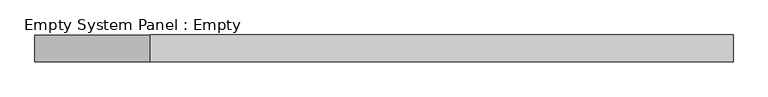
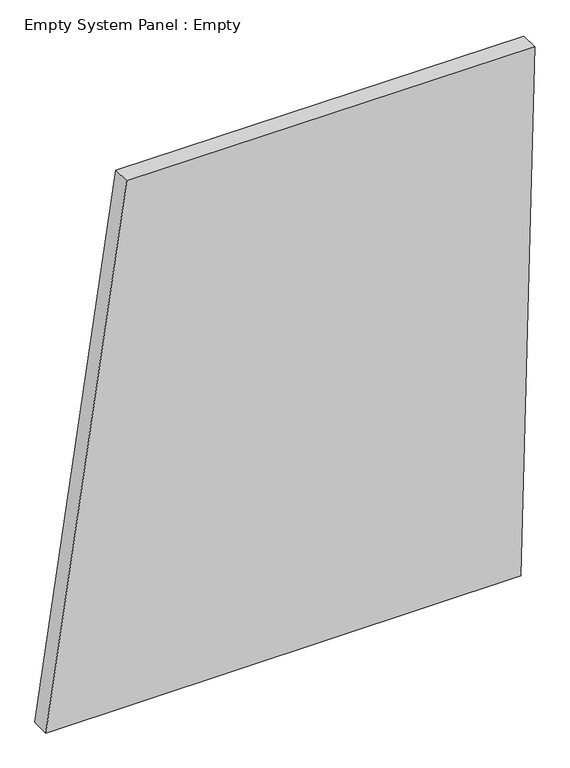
"""IFC4 building model written with IfcOpenShell, lengths in millimetres: plate geometry, Empty System Panel : Empty."""

import ifcopenshell
import ifcopenshell.guid

model = None  # the IFC model being written
_history = None  # IfcOwnerHistory: only IFC2X3 demands one
_inside = {}  # id of a spatial element -> (the spatial element, [elements in it])
_under = {}  # id of a project, library or spatial element -> (it, [spatial elements below it])
_declared = {}  # id of a project -> (the project, [libraries it declares])
_typed = {}  # id of a type object -> (the type object, [elements of that type])
_made_of = {}  # id of a material, layer set ... -> (it, [elements and type objects made of it])


def new_model(schema):
    """Start an empty IFC model of exactly this schema.

    Asked for "IFC4X3", IfcOpenShell would pick the latest addendum, in which some entities
    have other attributes; the version numbers below select the first issue.
    IFC2X3 requires an IfcOwnerHistory on every rooted entity: one is made here for all.
    """
    global model, _history
    if schema == "IFC4X3":
        model = ifcopenshell.file(schema_version=(4, 3, 0, 0))
    else:
        model = ifcopenshell.file(schema=schema)
    _inside.clear()
    _under.clear()
    _declared.clear()
    _typed.clear()
    _made_of.clear()
    _history = None
    if model.schema == "IFC2X3":
        org = make("IfcOrganization", Name="unknown")
        user = make(
            "IfcPersonAndOrganization",
            ThePerson=make("IfcPerson", FamilyName="unknown"),
            TheOrganization=org,
        )
        app = make(
            "IfcApplication",
            ApplicationDeveloper=org,
            Version="unknown",
            ApplicationFullName="unknown",
            ApplicationIdentifier="unknown",
        )
        _history = make(
            "IfcOwnerHistory",
            OwningUser=user,
            OwningApplication=app,
            ChangeAction="ADDED",
            CreationDate=0,
        )
    return model


def make(cls, **values):
    """One entity of the class cls with the attributes given. An attribute that is None is left unset."""
    return model.create_entity(
        cls, **{name: value for name, value in values.items() if value is not None}
    )


def rooted(cls, **values):
    """An entity with a GlobalId (a new one), such as an element, a storey or a relation."""
    return make(cls, GlobalId=ifcopenshell.guid.new(), OwnerHistory=_history, **values)


def si_unit(unit_type, name, prefix=None):
    """IfcSIUnit, for example si_unit("LENGTHUNIT", "METRE", prefix="MILLI")."""
    return make("IfcSIUnit", UnitType=unit_type, Prefix=prefix, Name=name)


def assignment(units):
    """IfcUnitAssignment: the units of a project."""
    return None if units is None else make("IfcUnitAssignment", Units=units)


def point(xyz):
    """IfcCartesianPoint."""
    return None if xyz is None else make("IfcCartesianPoint", Coordinates=xyz)


def direction(xyz):
    """IfcDirection."""
    return None if xyz is None else make("IfcDirection", DirectionRatios=xyz)


def frame(location, z_axis=None, x_axis=None):
    """IfcAxis2Placement3D, a coordinate frame: its origin and axes. An axis left out is left unset."""
    return make(
        "IfcAxis2Placement3D",
        Location=point(location),
        Axis=direction(z_axis),
        RefDirection=direction(x_axis),
    )


def origin():
    """The frame at (0, 0, 0) with its axes left unset."""
    return frame((0.0, 0.0, 0.0))


def place(relative_to, where):
    """IfcLocalPlacement: puts the frame where relative to a parent placement (None: the world)."""
    return make(
        "IfcLocalPlacement", PlacementRelTo=relative_to, RelativePlacement=where
    )


def context(
    kind, dimensions, precision=None, world=None, true_north=None, identifier=None
):
    """IfcGeometricRepresentationContext, for example the 3D "Model" context."""
    return make(
        "IfcGeometricRepresentationContext",
        ContextIdentifier=identifier,
        ContextType=kind,
        CoordinateSpaceDimension=dimensions,
        Precision=precision,
        WorldCoordinateSystem=world,
        TrueNorth=true_north,
    )


def project(units=None, contexts=None):
    """IfcProject with its units and contexts."""
    return rooted(
        "IfcProject",
        Name="project",
        RepresentationContexts=contexts,
        UnitsInContext=assignment(units),
    )


def spatial(cls, under=None, at=None, **own):
    """A site, building, storey or space (cls), placed at a placement, below another one or the project."""
    s = rooted(cls, ObjectPlacement=at, **own)
    if under is not None:
        _under.setdefault(under.id(), (under, []))[1].append(s)
    return s


def polyline(points):
    """IfcPolyline through the points."""
    return make("IfcPolyline", Points=[point(p) for p in points])


def outline(outer, holes=None, kind="AREA"):
    """IfcArbitraryClosedProfileDef: a profile drawn as a closed curve; with holes, ...WithVoids."""
    if holes is None:
        return make("IfcArbitraryClosedProfileDef", ProfileType=kind, OuterCurve=outer)
    return make(
        "IfcArbitraryProfileDefWithVoids",
        ProfileType=kind,
        OuterCurve=outer,
        InnerCurves=holes,
    )


def extrude(swept, where, along, depth):
    """IfcExtrudedAreaSolid: the profile swept, set in the frame where, extruded along a direction by depth."""
    return make(
        "IfcExtrudedAreaSolid",
        SweptArea=swept,
        Position=where,
        ExtrudedDirection=direction(along),
        Depth=depth,
    )


def shape(context_of_items, identifier, shape_type, items):
    """IfcShapeRepresentation: the items that make up one representation, for example the "Body"."""
    return make(
        "IfcShapeRepresentation",
        ContextOfItems=context_of_items,
        RepresentationIdentifier=identifier,
        RepresentationType=shape_type,
        Items=items,
    )


def source(mapping_origin, context_of_items, identifier, shape_type, items):
    """IfcRepresentationMap: a shape defined once, which mapped items show again and again."""
    return make(
        "IfcRepresentationMap",
        MappingOrigin=mapping_origin,
        MappedRepresentation=shape(context_of_items, identifier, shape_type, items),
    )


def transform(
    local_origin,
    x_axis=None,
    y_axis=None,
    z_axis=None,
    scale=None,
    scale2=None,
    scale3=None,
    uniform=True,
):
    """IfcCartesianTransformationOperator3D, or its non-uniform kind. x_axis, y_axis, z_axis: its Axis1, 2, 3."""
    if uniform:
        return make(
            "IfcCartesianTransformationOperator3D",
            Axis1=direction(x_axis),
            Axis2=direction(y_axis),
            LocalOrigin=point(local_origin),
            Scale=scale,
            Axis3=direction(z_axis),
        )
    return make(
        "IfcCartesianTransformationOperator3DnonUniform",
        Axis1=direction(x_axis),
        Axis2=direction(y_axis),
        LocalOrigin=point(local_origin),
        Scale=scale,
        Axis3=direction(z_axis),
        Scale2=scale2,
        Scale3=scale3,
    )


def mapped(mapping_source, mapping_target):
    """IfcMappedItem: shows the shape of a source again, moved by a transform."""
    return make(
        "IfcMappedItem", MappingSource=mapping_source, MappingTarget=mapping_target
    )


def made_of(thing, what):
    """Note that an element or type object is made of a material, layer set ...; save() writes the relation."""
    if what is not None:
        _made_of.setdefault(what.id(), (what, []))[1].append(thing)
    return thing


def element(
    cls,
    number,
    at=None,
    inside=None,
    cuts=None,
    type_object=None,
    material=None,
    context=None,
    identifier="Body",
    shape_type=None,
    held_by="IfcProductDefinitionShape",
    body=None,
    shapes=None,
    **own,
):
    """One element of the class cls, such as IfcWall. Its Tag is "e" and its number.

    at: its placement. inside: the storey or other place that contains it. cuts: it is an
    opening in that element (IfcRelVoidsElement). A single representation is given by context,
    identifier, shape_type and body (its items); several are given by shapes. held_by: the class
    of the entity that holds the representations. save() writes the other relations.
    """
    e = rooted(cls, Tag="e%d" % number, ObjectPlacement=at, **own)
    if body is not None:
        shapes = [shape(context, identifier, shape_type, body)]
    if shapes is not None:
        e.Representation = make(held_by, Representations=shapes)
    if inside is not None:
        _inside.setdefault(inside.id(), (inside, []))[1].append(e)
    if cuts is not None:
        rooted(
            "IfcRelVoidsElement", RelatingBuildingElement=cuts, RelatedOpeningElement=e
        )
    if type_object is not None:
        _typed.setdefault(type_object.id(), (type_object, []))[1].append(e)
    return made_of(e, material)


def aggregate(whole, parts):
    """IfcRelAggregates: a whole, such as a stair, and the parts it consists of."""
    return rooted("IfcRelAggregates", RelatingObject=whole, RelatedObjects=parts)


def save(model, path):
    """Write the relations noted so far, then the file.

    IfcRelAggregates (storeys below a building ...), IfcRelContainedInSpatialStructure (elements
    in a storey), IfcRelDefinesByType, IfcRelAssociatesMaterial and IfcRelDeclares: one each for
    every whole, place, type object, material and project.
    """
    for whole, parts in _under.values():
        aggregate(whole, parts)
    for where, things in _inside.values():
        rooted(
            "IfcRelContainedInSpatialStructure",
            RelatedElements=things,
            RelatingStructure=where,
        )
    for kind, things in _typed.values():
        rooted("IfcRelDefinesByType", RelatedObjects=things, RelatingType=kind)
    for what, things in _made_of.values():
        rooted("IfcRelAssociatesMaterial", RelatedObjects=things, RelatingMaterial=what)
    for by, libraries in _declared.values():
        rooted("IfcRelDeclares", RelatingContext=by, RelatedDefinitions=libraries)
    model.write(path)


def empty_system_panel_empty_f392819b(model_context):
    return source(origin(), model_context, "Body", "SweptSolid", [
        extrude(outline(polyline([(0.0, -1316.1590659), (0.0, 1242.1175283), (2985.4993943, 1316.1590659), (2991.7948528, -881.0092254), (0.0, -1316.1590659)])), frame((0.0, -50.8, 0.0), z_axis=(0.0, 1.0, 0.0), x_axis=(0.0, 0.0, 1.0)), (0.0, 0.0, 1.0), 101.6),
    ])


if __name__ == "__main__":
    model = new_model("IFC4")
    model_context = context("Model", 3, world=origin())
    ifc_project = project(units=[si_unit("LENGTHUNIT", "METRE", prefix="MILLI")], contexts=[model_context])
    site = spatial("IfcSite", under=ifc_project)
    building = spatial("IfcBuilding", under=site)
    placement = place(None, origin())
    empty_system_panel_empty_shape = empty_system_panel_empty_f392819b(model_context)
    element("IfcPlate", 1, ObjectType="Empty System Panel : Empty", at=placement, inside=building, context=model_context, shape_type="MappedRepresentation", body=[
        mapped(empty_system_panel_empty_shape, transform((0.0, 0.0, 0.0), x_axis=(1.0, 0.0, 0.0), y_axis=(0.0, 1.0, 0.0), z_axis=(0.0, 0.0, 1.0))),
    ])
    save(model, "model.ifc")
